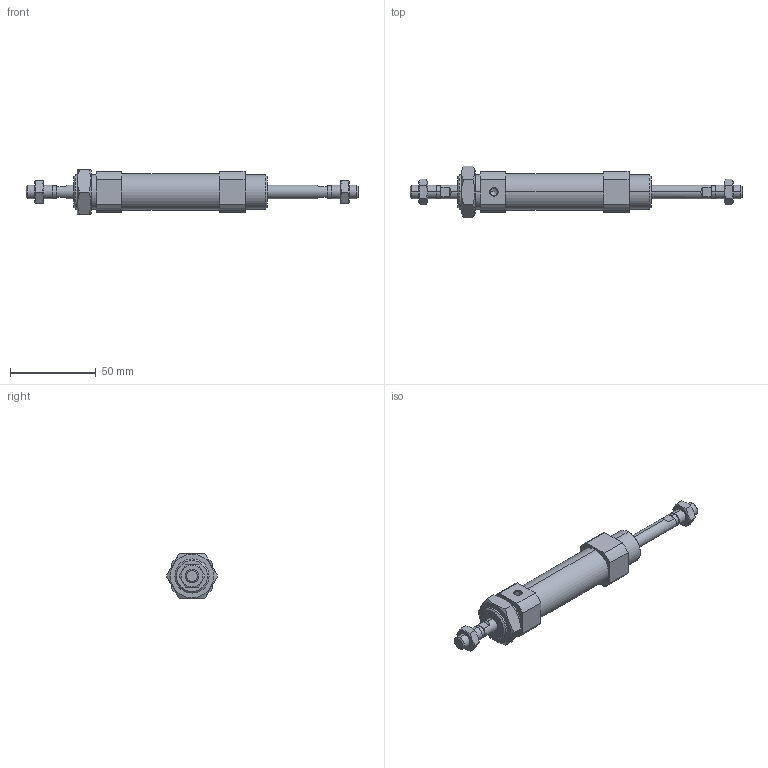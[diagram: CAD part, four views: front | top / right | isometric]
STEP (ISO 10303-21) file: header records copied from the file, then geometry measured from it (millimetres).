
FILE_DESCRIPTION (( 'STEP AP203' ), '1' );
FILE_NAME ('CSM2B20-25-P.STEP', '2020-07-20T15:27:48', ( '' ), ( '' ), 'SwSTEP 2.0', 'SolidWorks 2019', '' );
FILE_SCHEMA (( 'CONFIG_CONTROL_DESIGN' ));
Length unit declared in the file: millimetre
Products named in the file (1): CSM2B20-25-P
Bounding box: 194 x 30.02 x 26 mm (x, y, z)
Volume: 44959.4 mm3; surface area: 22544.9 mm2
Topology: 5 solids, 5 shells, 153 faces, 362 edges, 228 vertices
Faces by surface type: plane 62, cylinder 46, cone 45
Entity records: 5450 total; most frequent: CARTESIAN_POINT 1855, DIRECTION 741, ORIENTED_EDGE 720, EDGE_CURVE 360, AXIS2_PLACEMENT_3D 294, VERTEX_POINT 228, EDGE_LOOP 176, ADVANCED_FACE 153
